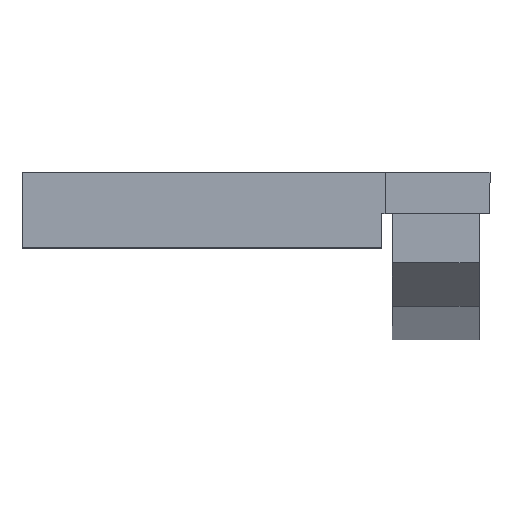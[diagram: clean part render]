
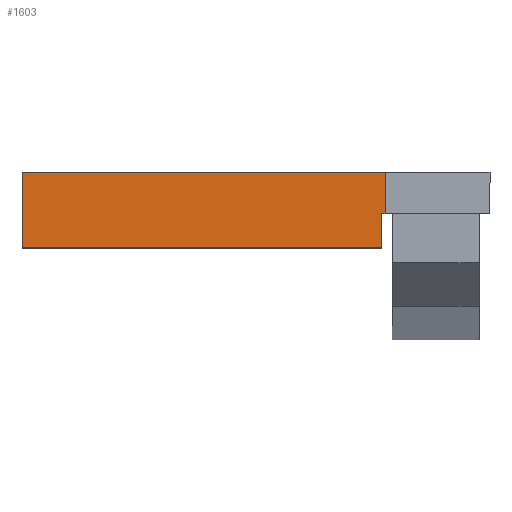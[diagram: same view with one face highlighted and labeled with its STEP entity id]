
A CAD part, top view. The second image highlights one B-rep face of the part: STEP entity #1603.
In plain terms, the highlighted planar face has unit normal (0, 0, 1).
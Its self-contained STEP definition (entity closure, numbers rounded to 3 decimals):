
#2 = EDGE_CURVE ( 'NONE', #1063, #995, #656, .T. ) ;
#3 = EDGE_CURVE ( 'NONE', #1010, #1063, #661, .T. ) ;
#104 = AXIS2_PLACEMENT_3D ( 'NONE', #824, #818, #817 ) ;
#141 = EDGE_CURVE ( 'NONE', #1010, #1057, #550, .T. ) ;
#183 = ORIENTED_EDGE ( 'NONE', *, *, #3, .T. ) ;
#208 = EDGE_LOOP ( 'NONE', ( #183, #423, #301, #234, #410, #220 ) ) ;
#220 = ORIENTED_EDGE ( 'NONE', *, *, #141, .F. ) ;
#234 = ORIENTED_EDGE ( 'NONE', *, *, #1532, .T. ) ;
#235 = VECTOR ( 'NONE', #1456, 1000. ) ;
#239 = LINE ( 'NONE', #1452, #235 ) ;
#246 = VECTOR ( 'NONE', #1468, 1000. ) ;
#301 = ORIENTED_EDGE ( 'NONE', *, *, #1537, .T. ) ;
#308 = VECTOR ( 'NONE', #1459, 1000. ) ;
#312 = LINE ( 'NONE', #1453, #246 ) ;
#319 = LINE ( 'NONE', #1458, #308 ) ;
#410 = ORIENTED_EDGE ( 'NONE', *, *, #1536, .T. ) ;
#423 = ORIENTED_EDGE ( 'NONE', *, *, #2, .T. ) ;
#550 = LINE ( 'NONE', #1181, #559 ) ;
#559 = VECTOR ( 'NONE', #1178, 1000. ) ;
#656 = LINE ( 'NONE', #979, #756 ) ;
#661 = LINE ( 'NONE', #975, #755 ) ;
#755 = VECTOR ( 'NONE', #1045, 1000. ) ;
#756 = VECTOR ( 'NONE', #1047, 1000. ) ;
#772 = FACE_OUTER_BOUND ( 'NONE', #208, .T. ) ;
#817 = DIRECTION ( 'NONE',  ( 1., 0., 0. ) ) ;
#818 = DIRECTION ( 'NONE',  ( 0., 0., -1. ) ) ;
#823 = PLANE ( 'NONE',  #104 ) ;
#824 = CARTESIAN_POINT ( 'NONE',  ( -24.5, -16., 13. ) ) ;
#975 = CARTESIAN_POINT ( 'NONE',  ( -24.5, 0., 13. ) ) ;
#979 = CARTESIAN_POINT ( 'NONE',  ( 12., -16., 13. ) ) ;
#993 = VERTEX_POINT ( 'NONE', #1216 ) ;
#995 = VERTEX_POINT ( 'NONE', #1214 ) ;
#1010 = VERTEX_POINT ( 'NONE', #1199 ) ;
#1045 = DIRECTION ( 'NONE',  ( 1., 0., 0. ) ) ;
#1047 = DIRECTION ( 'NONE',  ( 0., 1., 0. ) ) ;
#1057 = VERTEX_POINT ( 'NONE', #1289 ) ;
#1060 = VERTEX_POINT ( 'NONE', #1286 ) ;
#1063 = VERTEX_POINT ( 'NONE', #1283 ) ;
#1178 = DIRECTION ( 'NONE',  ( 0., 1., 0. ) ) ;
#1181 = CARTESIAN_POINT ( 'NONE',  ( -24.5, -16., 13. ) ) ;
#1199 = CARTESIAN_POINT ( 'NONE',  ( -24.5, 0., 13. ) ) ;
#1214 = CARTESIAN_POINT ( 'NONE',  ( 12., 3.5, 13. ) ) ;
#1216 = CARTESIAN_POINT ( 'NONE',  ( 12.35, 3.5, 13. ) ) ;
#1283 = CARTESIAN_POINT ( 'NONE',  ( 12., 0., 13. ) ) ;
#1286 = CARTESIAN_POINT ( 'NONE',  ( 12.35, 7.7, 13. ) ) ;
#1289 = CARTESIAN_POINT ( 'NONE',  ( -24.5, 7.7, 13. ) ) ;
#1452 = CARTESIAN_POINT ( 'NONE',  ( -24.5, 3.5, 13. ) ) ;
#1453 = CARTESIAN_POINT ( 'NONE',  ( -24.5, 7.7, 13. ) ) ;
#1456 = DIRECTION ( 'NONE',  ( 1., 0., 0. ) ) ;
#1458 = CARTESIAN_POINT ( 'NONE',  ( 12.35, -16., 13. ) ) ;
#1459 = DIRECTION ( 'NONE',  ( 0., 1., 0. ) ) ;
#1468 = DIRECTION ( 'NONE',  ( -1., 0., 0. ) ) ;
#1532 = EDGE_CURVE ( 'NONE', #993, #1060, #319, .T. ) ;
#1536 = EDGE_CURVE ( 'NONE', #1060, #1057, #312, .T. ) ;
#1537 = EDGE_CURVE ( 'NONE', #995, #993, #239, .T. ) ;
#1603 = ADVANCED_FACE ( 'NONE', ( #772 ), #823, .F. ) ;
